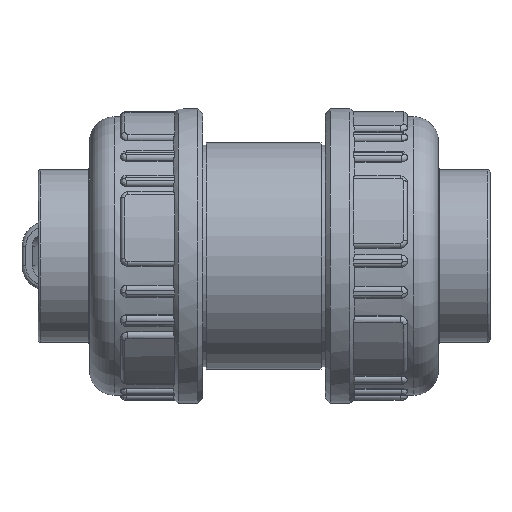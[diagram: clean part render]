
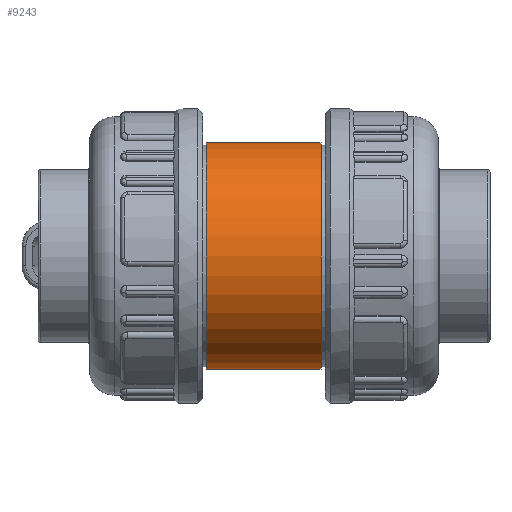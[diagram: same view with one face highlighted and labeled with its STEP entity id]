
A CAD part, left-side view. The second image highlights one B-rep face of the part: STEP entity #9243.
In plain terms, the highlighted cylindrical face has radius 23.075 mm (diameter 46.15 mm), a full revolution.
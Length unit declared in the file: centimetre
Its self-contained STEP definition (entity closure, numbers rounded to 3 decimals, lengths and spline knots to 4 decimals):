
#411=B_SPLINE_CURVE_WITH_KNOTS('',3,(#36822,#36823,#36824,#36825,#36826,
#36827,#36828,#36829,#36830,#36831,#36832,#36833,#36834,#36835,#36836,#36837,
#36838,#36839,#36840,#36841,#36842,#36843,#36844,#36845,#36846,#36847,#36848,
#36849,#36850,#36851,#36852,#36853,#36854,#36855),.UNSPECIFIED.,.T.,.F.,
(4,2,2,2,2,2,2,2,2,2,2,2,2,2,2,2,4),(0.,0.4184,0.8368,
1.2543,1.6719,2.0894,2.5069,2.9253,
3.3437,3.7621,4.1805,4.598,5.0156,
5.4331,5.8506,6.269,6.6874),
 .UNSPECIFIED.);
#1692=CYLINDRICAL_SURFACE('',#10075,2.3075);
#1755=FACE_BOUND('',#2864,.T.);
#1756=FACE_BOUND('',#2865,.T.);
#2281=FACE_OUTER_BOUND('',#2863,.T.);
#2863=EDGE_LOOP('',(#7998));
#2864=EDGE_LOOP('',(#7999));
#2865=EDGE_LOOP('',(#8000));
#3322=CIRCLE('',#10076,2.3075);
#3323=CIRCLE('',#10077,2.3075);
#3795=VERTEX_POINT('',#36821);
#4152=VERTEX_POINT('',#60417);
#4153=VERTEX_POINT('',#60419);
#4884=EDGE_CURVE('',#3795,#3795,#411,.T.);
#5439=EDGE_CURVE('',#4152,#4152,#3322,.T.);
#5440=EDGE_CURVE('',#4153,#4153,#3323,.T.);
#7998=ORIENTED_EDGE('',*,*,#5439,.F.);
#7999=ORIENTED_EDGE('',*,*,#4884,.T.);
#8000=ORIENTED_EDGE('',*,*,#5440,.T.);
#9243=ADVANCED_FACE('',(#2281,#1755,#1756),#1692,.T.);
#10075=AXIS2_PLACEMENT_3D('',#60416,#12221,#12222);
#10076=AXIS2_PLACEMENT_3D('',#60418,#12223,#12224);
#10077=AXIS2_PLACEMENT_3D('',#60420,#12225,#12226);
#12221=DIRECTION('center_axis',(0.,-1.,0.));
#12222=DIRECTION('ref_axis',(-1.,0.,0.));
#12223=DIRECTION('center_axis',(0.,-1.,0.));
#12224=DIRECTION('ref_axis',(1.,0.,0.));
#12225=DIRECTION('center_axis',(0.,-1.,0.));
#12226=DIRECTION('ref_axis',(1.,0.,0.));
#36821=CARTESIAN_POINT('',(2.0338,0.,-1.09));
#36822=CARTESIAN_POINT('Ctrl Pts',(2.0338,0.,
-1.09));
#36823=CARTESIAN_POINT('Ctrl Pts',(2.0338,-0.1395,
-1.09));
#36824=CARTESIAN_POINT('Ctrl Pts',(2.0497,-0.2863,
-1.0617));
#36825=CARTESIAN_POINT('Ctrl Pts',(2.1039,-0.554,
-0.9498));
#36826=CARTESIAN_POINT('Ctrl Pts',(2.1411,-0.6751,
-0.8664));
#36827=CARTESIAN_POINT('Ctrl Pts',(2.2088,-0.8662,
-0.6753));
#36828=CARTESIAN_POINT('Ctrl Pts',(2.2441,-0.9498,
-0.5542));
#36829=CARTESIAN_POINT('Ctrl Pts',(2.2937,-1.0617,-0.2862));
#36830=CARTESIAN_POINT('Ctrl Pts',(2.3075,-1.09,-0.1392));
#36831=CARTESIAN_POINT('Ctrl Pts',(2.3075,-1.09,0.1392));
#36832=CARTESIAN_POINT('Ctrl Pts',(2.2937,-1.0617,0.2862));
#36833=CARTESIAN_POINT('Ctrl Pts',(2.2441,-0.9498,
0.5542));
#36834=CARTESIAN_POINT('Ctrl Pts',(2.2088,-0.8662,
0.6753));
#36835=CARTESIAN_POINT('Ctrl Pts',(2.1411,-0.6751,
0.8664));
#36836=CARTESIAN_POINT('Ctrl Pts',(2.1039,-0.554,
0.9498));
#36837=CARTESIAN_POINT('Ctrl Pts',(2.0497,-0.2863,
1.0617));
#36838=CARTESIAN_POINT('Ctrl Pts',(2.0338,-0.1395,
1.09));
#36839=CARTESIAN_POINT('Ctrl Pts',(2.0338,0.1395,1.09));
#36840=CARTESIAN_POINT('Ctrl Pts',(2.0497,0.2863,1.0617));
#36841=CARTESIAN_POINT('Ctrl Pts',(2.1039,0.554,0.9498));
#36842=CARTESIAN_POINT('Ctrl Pts',(2.1411,0.6751,0.8664));
#36843=CARTESIAN_POINT('Ctrl Pts',(2.2088,0.8662,0.6753));
#36844=CARTESIAN_POINT('Ctrl Pts',(2.2441,0.9498,0.5542));
#36845=CARTESIAN_POINT('Ctrl Pts',(2.2937,1.0617,0.2862));
#36846=CARTESIAN_POINT('Ctrl Pts',(2.3075,1.09,0.1392));
#36847=CARTESIAN_POINT('Ctrl Pts',(2.3075,1.09,-0.1392));
#36848=CARTESIAN_POINT('Ctrl Pts',(2.2937,1.0617,-0.2862));
#36849=CARTESIAN_POINT('Ctrl Pts',(2.2441,0.9498,-0.5542));
#36850=CARTESIAN_POINT('Ctrl Pts',(2.2088,0.8662,-0.6753));
#36851=CARTESIAN_POINT('Ctrl Pts',(2.1411,0.6751,-0.8664));
#36852=CARTESIAN_POINT('Ctrl Pts',(2.1039,0.554,-0.9498));
#36853=CARTESIAN_POINT('Ctrl Pts',(2.0497,0.2863,-1.0617));
#36854=CARTESIAN_POINT('Ctrl Pts',(2.0338,0.1395,-1.09));
#36855=CARTESIAN_POINT('Ctrl Pts',(2.0338,0.,
-1.09));
#60416=CARTESIAN_POINT('Origin',(0.,0.01,0.));
#60417=CARTESIAN_POINT('',(-2.3075,-1.16,0.));
#60418=CARTESIAN_POINT('Origin',(0.,-1.16,0.));
#60419=CARTESIAN_POINT('',(-2.3075,1.18,0.));
#60420=CARTESIAN_POINT('Origin',(0.,1.18,0.));
